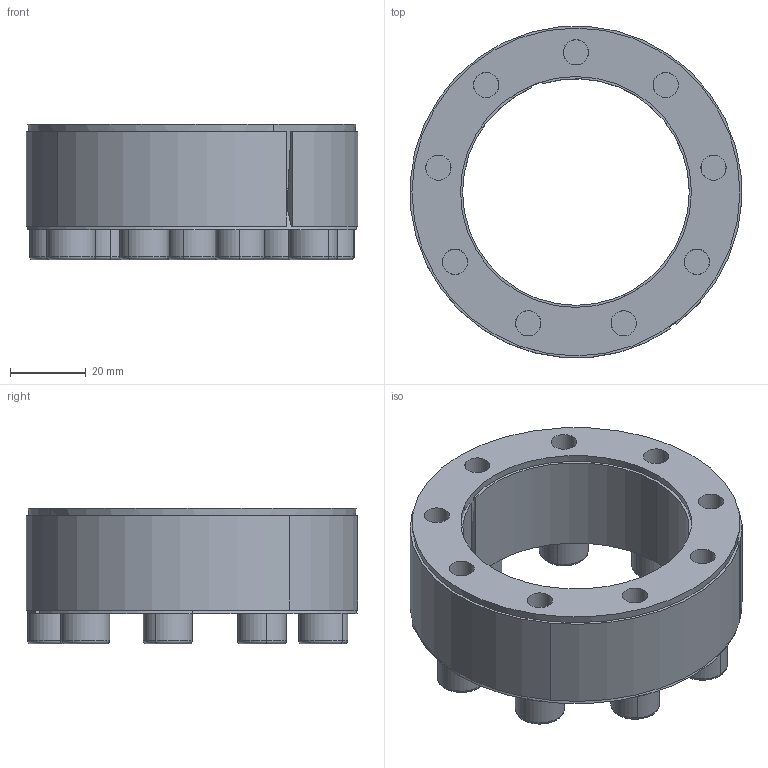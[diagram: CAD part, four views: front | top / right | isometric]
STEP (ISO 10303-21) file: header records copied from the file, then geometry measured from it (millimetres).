
FILE_DESCRIPTION (( 'STEP AP214' ), '1' );
FILE_NAME ('CONEX-L-60x88.step', '2013-04-06T13:23:08', ( 'Pc' ), ( '' ), 'SwSTEP 2.0', 'SolidWorks 2013', '' );
FILE_SCHEMA (( 'AUTOMOTIVE_DESIGN' ));
Length unit declared in the file: millimetre
Products named in the file (1): CONEX-L-60x88
Bounding box: 87.78 x 87.71 x 35.97 mm (x, y, z)
Volume: 87495.1 mm3; surface area: 57204.1 mm2
Topology: 12 solids, 12 shells, 318 faces, 727 edges, 433 vertices
Faces by surface type: plane 146, cylinder 84, cone 52, torus 36
Entity records: 12538 total; most frequent: DIRECTION 1680, CARTESIAN_POINT 1494, ORIENTED_EDGE 1418, EDGE_CURVE 709, AXIS2_PLACEMENT_3D 660, VERTEX_POINT 433, EDGE_LOOP 380, LINE 360
